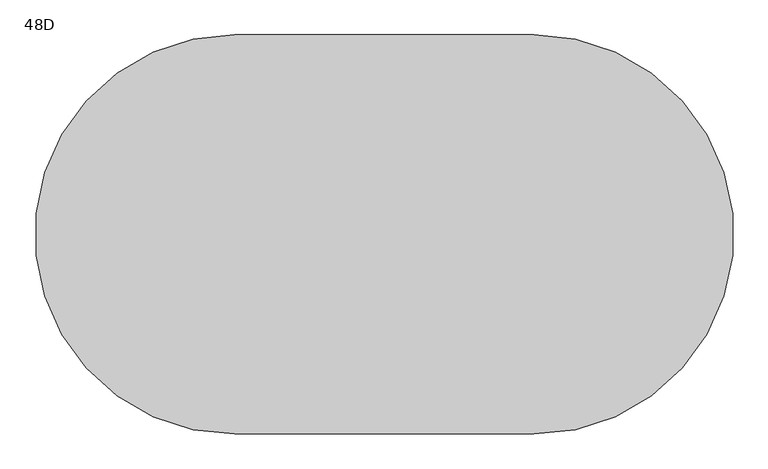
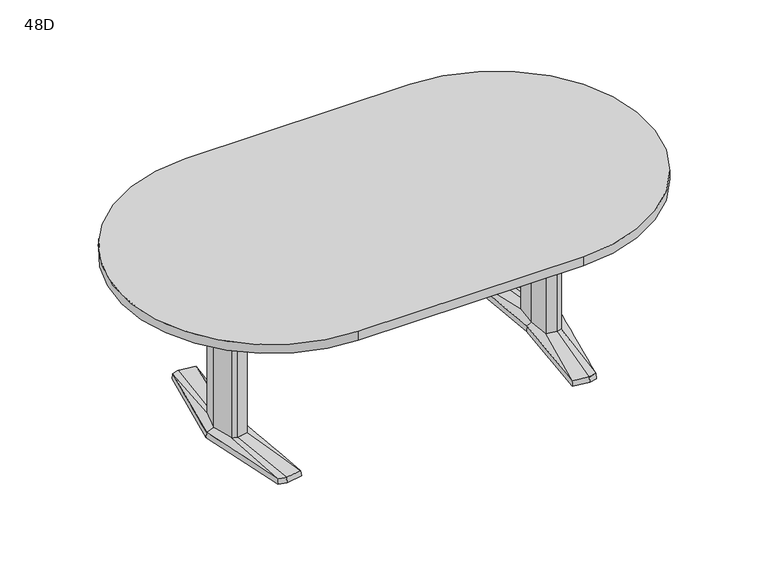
"""IFC4 building model written with IfcOpenShell, lengths in millimetres: furniture geometry, Coalesse_AM_Table_Conference_ETable2_Racetrack_84in_AluminiumBase : 48D."""

import ifcopenshell
import ifcopenshell.guid

model = None  # the IFC model being written
_history = None  # IfcOwnerHistory: only IFC2X3 demands one
_inside = {}  # id of a spatial element -> (the spatial element, [elements in it])
_under = {}  # id of a project, library or spatial element -> (it, [spatial elements below it])
_declared = {}  # id of a project -> (the project, [libraries it declares])
_typed = {}  # id of a type object -> (the type object, [elements of that type])
_made_of = {}  # id of a material, layer set ... -> (it, [elements and type objects made of it])


def new_model(schema):
    """Start an empty IFC model of exactly this schema.

    Asked for "IFC4X3", IfcOpenShell would pick the latest addendum, in which some entities
    have other attributes; the version numbers below select the first issue.
    IFC2X3 requires an IfcOwnerHistory on every rooted entity: one is made here for all.
    """
    global model, _history
    if schema == "IFC4X3":
        model = ifcopenshell.file(schema_version=(4, 3, 0, 0))
    else:
        model = ifcopenshell.file(schema=schema)
    _inside.clear()
    _under.clear()
    _declared.clear()
    _typed.clear()
    _made_of.clear()
    _history = None
    if model.schema == "IFC2X3":
        org = make("IfcOrganization", Name="unknown")
        user = make(
            "IfcPersonAndOrganization",
            ThePerson=make("IfcPerson", FamilyName="unknown"),
            TheOrganization=org,
        )
        app = make(
            "IfcApplication",
            ApplicationDeveloper=org,
            Version="unknown",
            ApplicationFullName="unknown",
            ApplicationIdentifier="unknown",
        )
        _history = make(
            "IfcOwnerHistory",
            OwningUser=user,
            OwningApplication=app,
            ChangeAction="ADDED",
            CreationDate=0,
        )
    return model


def make(cls, **values):
    """One entity of the class cls with the attributes given. An attribute that is None is left unset."""
    return model.create_entity(
        cls, **{name: value for name, value in values.items() if value is not None}
    )


def rooted(cls, **values):
    """An entity with a GlobalId (a new one), such as an element, a storey or a relation."""
    return make(cls, GlobalId=ifcopenshell.guid.new(), OwnerHistory=_history, **values)


def si_unit(unit_type, name, prefix=None):
    """IfcSIUnit, for example si_unit("LENGTHUNIT", "METRE", prefix="MILLI")."""
    return make("IfcSIUnit", UnitType=unit_type, Prefix=prefix, Name=name)


def assignment(units):
    """IfcUnitAssignment: the units of a project."""
    return None if units is None else make("IfcUnitAssignment", Units=units)


def point(xyz):
    """IfcCartesianPoint."""
    return None if xyz is None else make("IfcCartesianPoint", Coordinates=xyz)


def direction(xyz):
    """IfcDirection."""
    return None if xyz is None else make("IfcDirection", DirectionRatios=xyz)


def frame(location, z_axis=None, x_axis=None):
    """IfcAxis2Placement3D, a coordinate frame: its origin and axes. An axis left out is left unset."""
    return make(
        "IfcAxis2Placement3D",
        Location=point(location),
        Axis=direction(z_axis),
        RefDirection=direction(x_axis),
    )


def frame_2d(location, x_axis=None):
    """IfcAxis2Placement2D, a coordinate frame in the plane: its origin and x axis."""
    return make(
        "IfcAxis2Placement2D", Location=point(location), RefDirection=direction(x_axis)
    )


def origin():
    """The frame at (0, 0, 0) with its axes left unset."""
    return frame((0.0, 0.0, 0.0))


def place(relative_to, where):
    """IfcLocalPlacement: puts the frame where relative to a parent placement (None: the world)."""
    return make(
        "IfcLocalPlacement", PlacementRelTo=relative_to, RelativePlacement=where
    )


def context(
    kind, dimensions, precision=None, world=None, true_north=None, identifier=None
):
    """IfcGeometricRepresentationContext, for example the 3D "Model" context."""
    return make(
        "IfcGeometricRepresentationContext",
        ContextIdentifier=identifier,
        ContextType=kind,
        CoordinateSpaceDimension=dimensions,
        Precision=precision,
        WorldCoordinateSystem=world,
        TrueNorth=true_north,
    )


def project(units=None, contexts=None):
    """IfcProject with its units and contexts."""
    return rooted(
        "IfcProject",
        Name="project",
        RepresentationContexts=contexts,
        UnitsInContext=assignment(units),
    )


def spatial(cls, under=None, at=None, **own):
    """A site, building, storey or space (cls), placed at a placement, below another one or the project."""
    s = rooted(cls, ObjectPlacement=at, **own)
    if under is not None:
        _under.setdefault(under.id(), (under, []))[1].append(s)
    return s


def polyline(points):
    """IfcPolyline through the points."""
    return make("IfcPolyline", Points=[point(p) for p in points])


def circle_curve(where, radius):
    """IfcCircle in the frame where."""
    return make("IfcCircle", Position=where, Radius=radius)


def trimmed(basis, trim1, trim2, sense, master):
    """IfcTrimmedCurve: the piece of a basis curve between two trims."""
    return make(
        "IfcTrimmedCurve",
        BasisCurve=basis,
        Trim1=trim1,
        Trim2=trim2,
        SenseAgreement=sense,
        MasterRepresentation=master,
    )


def segment(curve, same_sense, transition):
    """IfcCompositeCurveSegment."""
    return make(
        "IfcCompositeCurveSegment",
        Transition=transition,
        SameSense=same_sense,
        ParentCurve=curve,
    )


def composite_curve(segments, self_intersect=None):
    """IfcCompositeCurve: segments joined end to end."""
    return make("IfcCompositeCurve", Segments=segments, SelfIntersect=self_intersect)


def outline(outer, holes=None, kind="AREA"):
    """IfcArbitraryClosedProfileDef: a profile drawn as a closed curve; with holes, ...WithVoids."""
    if holes is None:
        return make("IfcArbitraryClosedProfileDef", ProfileType=kind, OuterCurve=outer)
    return make(
        "IfcArbitraryProfileDefWithVoids",
        ProfileType=kind,
        OuterCurve=outer,
        InnerCurves=holes,
    )


def extrude(swept, where, along, depth):
    """IfcExtrudedAreaSolid: the profile swept, set in the frame where, extruded along a direction by depth."""
    return make(
        "IfcExtrudedAreaSolid",
        SweptArea=swept,
        Position=where,
        ExtrudedDirection=direction(along),
        Depth=depth,
    )


def shape(context_of_items, identifier, shape_type, items):
    """IfcShapeRepresentation: the items that make up one representation, for example the "Body"."""
    return make(
        "IfcShapeRepresentation",
        ContextOfItems=context_of_items,
        RepresentationIdentifier=identifier,
        RepresentationType=shape_type,
        Items=items,
    )


def source(mapping_origin, context_of_items, identifier, shape_type, items):
    """IfcRepresentationMap: a shape defined once, which mapped items show again and again."""
    return make(
        "IfcRepresentationMap",
        MappingOrigin=mapping_origin,
        MappedRepresentation=shape(context_of_items, identifier, shape_type, items),
    )


def transform(
    local_origin,
    x_axis=None,
    y_axis=None,
    z_axis=None,
    scale=None,
    scale2=None,
    scale3=None,
    uniform=True,
):
    """IfcCartesianTransformationOperator3D, or its non-uniform kind. x_axis, y_axis, z_axis: its Axis1, 2, 3."""
    if uniform:
        return make(
            "IfcCartesianTransformationOperator3D",
            Axis1=direction(x_axis),
            Axis2=direction(y_axis),
            LocalOrigin=point(local_origin),
            Scale=scale,
            Axis3=direction(z_axis),
        )
    return make(
        "IfcCartesianTransformationOperator3DnonUniform",
        Axis1=direction(x_axis),
        Axis2=direction(y_axis),
        LocalOrigin=point(local_origin),
        Scale=scale,
        Axis3=direction(z_axis),
        Scale2=scale2,
        Scale3=scale3,
    )


def mapped(mapping_source, mapping_target):
    """IfcMappedItem: shows the shape of a source again, moved by a transform."""
    return make(
        "IfcMappedItem", MappingSource=mapping_source, MappingTarget=mapping_target
    )


def made_of(thing, what):
    """Note that an element or type object is made of a material, layer set ...; save() writes the relation."""
    if what is not None:
        _made_of.setdefault(what.id(), (what, []))[1].append(thing)
    return thing


def element(
    cls,
    number,
    at=None,
    inside=None,
    cuts=None,
    type_object=None,
    material=None,
    context=None,
    identifier="Body",
    shape_type=None,
    held_by="IfcProductDefinitionShape",
    body=None,
    shapes=None,
    **own,
):
    """One element of the class cls, such as IfcWall. Its Tag is "e" and its number.

    at: its placement. inside: the storey or other place that contains it. cuts: it is an
    opening in that element (IfcRelVoidsElement). A single representation is given by context,
    identifier, shape_type and body (its items); several are given by shapes. held_by: the class
    of the entity that holds the representations. save() writes the other relations.
    """
    e = rooted(cls, Tag="e%d" % number, ObjectPlacement=at, **own)
    if body is not None:
        shapes = [shape(context, identifier, shape_type, body)]
    if shapes is not None:
        e.Representation = make(held_by, Representations=shapes)
    if inside is not None:
        _inside.setdefault(inside.id(), (inside, []))[1].append(e)
    if cuts is not None:
        rooted(
            "IfcRelVoidsElement", RelatingBuildingElement=cuts, RelatedOpeningElement=e
        )
    if type_object is not None:
        _typed.setdefault(type_object.id(), (type_object, []))[1].append(e)
    return made_of(e, material)


def aggregate(whole, parts):
    """IfcRelAggregates: a whole, such as a stair, and the parts it consists of."""
    return rooted("IfcRelAggregates", RelatingObject=whole, RelatedObjects=parts)


def save(model, path):
    """Write the relations noted so far, then the file.

    IfcRelAggregates (storeys below a building ...), IfcRelContainedInSpatialStructure (elements
    in a storey), IfcRelDefinesByType, IfcRelAssociatesMaterial and IfcRelDeclares: one each for
    every whole, place, type object, material and project.
    """
    for whole, parts in _under.values():
        aggregate(whole, parts)
    for where, things in _inside.values():
        rooted(
            "IfcRelContainedInSpatialStructure",
            RelatedElements=things,
            RelatingStructure=where,
        )
    for kind, things in _typed.values():
        rooted("IfcRelDefinesByType", RelatedObjects=things, RelatingType=kind)
    for what, things in _made_of.values():
        rooted("IfcRelAssociatesMaterial", RelatedObjects=things, RelatingMaterial=what)
    for by, libraries in _declared.values():
        rooted("IfcRelDeclares", RelatingContext=by, RelatedDefinitions=libraries)
    model.write(path)


def plane_surface(at):
    """IfcPlane: the flat surface through the origin of the frame at, square to its z axis."""
    return make("IfcPlane", Position=at)


def spline_surface(u_degree, v_degree, points, u_multiplicities, v_multiplicities, u_knots, v_knots, weights=None):
    """IfcBSplineSurfaceWithKnots; with weights, IfcRationalBSplineSurfaceWithKnots. points: one row for each step in u."""
    own = dict(
        UDegree=u_degree,
        VDegree=v_degree,
        ControlPointsList=[[point(p) for p in row] for row in points],
        SurfaceForm="UNSPECIFIED",
        UClosed=False,
        VClosed=False,
        SelfIntersect=False,
        UMultiplicities=u_multiplicities,
        VMultiplicities=v_multiplicities,
        UKnots=u_knots,
        VKnots=v_knots,
        KnotSpec="UNSPECIFIED",
    )
    if weights is None:
        return make("IfcBSplineSurfaceWithKnots", **own)
    return make("IfcRationalBSplineSurfaceWithKnots", WeightsData=weights, **own)


def advanced_brep(points, edges, surfaces, faces):
    """IfcAdvancedBrep: a solid bounded by faces that lie on surfaces and meet in shared edges.

    An edge is (start, end): straight between two places in points (the first is 0);
    or (start, end, curve); or (start, end, curve, False) where it runs against its curve.
    A face is (place in surfaces, loops), or (place, loops, False) where it looks against
    its surface's normal. A loop lists edges by number (the first is 1), with a minus sign
    where the edge is run from its end to its start. The first loop is the outer one.
    """
    corners = [point(p) for p in points]
    vertices = [make("IfcVertexPoint", VertexGeometry=c) for c in corners]
    made = []
    for start, end, *more in edges:
        made.append(
            make(
                "IfcEdgeCurve",
                EdgeStart=vertices[start],
                EdgeEnd=vertices[end],
                EdgeGeometry=more[0] if more else make("IfcPolyline", Points=[corners[start], corners[end]]),
                SameSense=more[1] if len(more) > 1 else True,
            )
        )
    hull = []
    for where, loops, *sense in faces:
        bounds = []
        for j, loop in enumerate(loops):
            ring = [make("IfcOrientedEdge", EdgeElement=made[abs(k) - 1], Orientation=k > 0) for k in loop]
            bounds.append(
                make(
                    "IfcFaceOuterBound" if j == 0 else "IfcFaceBound",
                    Bound=make("IfcEdgeLoop", EdgeList=ring),
                    Orientation=True,
                )
            )
        hull.append(make("IfcAdvancedFace", Bounds=bounds, FaceSurface=surfaces[where], SameSense=sense[0] if sense else True))
    return make("IfcAdvancedBrep", Outer=make("IfcClosedShell", CfsFaces=hull))


def furniture_48d_139d7b73(model_context):
    return source(origin(), model_context, "Body", "SolidModel", [
        advanced_brep(
        [(614.8503471, -379.3768856, 25.4), (644.5756636, -371.5332654, 25.4), (668.2327243, -89.293702, 36.5125), (648.9795254, -94.605478, 36.5125), (606.0521001, -87.0529327, 36.5125), (551.7612538, -368.5071562, 25.4), (597.9364207, 0.0, 36.5125), (579.8389754, 0.3970149, 25.4), (606.0521001, 87.0529327, 36.5125), (551.7615002, 368.5172593, 25.4), (648.9795254, 94.605478, 36.5125), (614.8502233, 379.3769183, 25.4), (668.2327243, 89.293702, 36.5125), (644.7535458, 371.4863276, 25.4), (692.1595251, 0.0, 36.5125), (721.4851663, 0.0003516, 25.4), (578.2468742, 0.3968871, 3.175), (550.06875, 369.8367279, 3.175), (614.9213004, 381.0, 3.175), (646.1093245, 372.7704151, 3.175), (723.10625, 0.0, 3.175), (645.9309817, -372.8174744, 3.175), (614.9213004, -381.0, 3.175), (550.06875, -369.8264415, 3.175), (649.5979264, 107.6121478, 3.175), (594.3065451, 97.8843184, 3.175), (585.1810887, 0.0, 3.175), (594.3065451, -97.8843184, 3.175), (649.5979264, -107.6121478, 3.175), (678.6183473, -99.6056872, 3.175), (705.3083085, 0.0, 3.175), (678.6183473, 99.6056872, 3.175), (613.4286812, 346.9152841, 3.175), (557.7811371, 337.3364985, 3.175), (560.1889918, 324.8641942, 3.175), (612.8600644, 333.9306305, 3.175), (648.6725609, 324.4807859, 3.175), (647.5544526, 337.9105158, 3.175), (613.4286812, -346.9152841, 3.175), (647.5544526, -337.9105158, 3.175), (648.6725609, -324.4807859, 3.175), (612.8600644, -333.9306305, 3.175), (560.1889918, -324.8641942, 3.175), (557.7811371, -337.3364985, 3.175), (649.5979264, 107.6121478, 0.0), (678.6183473, 99.6056872, 0.0), (705.3083085, 0.0, 0.0), (678.6183473, -99.6056872, 0.0), (649.5979264, -107.6121478, 0.0), (594.3065451, -97.8843184, 0.0), (585.1810887, 0.0, 0.0), (594.3065451, 97.8843184, 0.0), (613.4286812, 346.9152841, 0.0), (647.5544526, 337.9105158, 0.0), (648.6725609, 324.4807859, 0.0), (612.8600644, 333.9306305, 0.0), (560.1889918, 324.8641942, 0.0), (557.7811371, 337.3364985, 0.0), (613.4286812, -346.9152841, 0.0), (557.7811371, -337.3364985, 0.0), (560.1889918, -324.8641942, 0.0), (612.8600644, -333.9306305, 0.0), (648.6725609, -324.4807859, 0.0), (647.5544526, -337.9105158, 0.0), (668.2327243, 89.293702, 698.5), (648.9795254, 94.605478, 698.5), (606.0521001, 87.0529327, 698.5), (597.9364207, 0.0, 698.5), (606.0521001, -87.0529327, 698.5), (648.9795254, -94.605478, 698.5), (668.2327243, -89.293702, 698.5), (692.1595251, 0.0, 698.5)],
        [
            (0, 1),
            (1, 2),
            (2, 3),
            (3, 0),
            (3, 4),
            (4, 5),
            (5, 0),
            (4, 6),
            (6, 7),
            (7, 5),
            (6, 8),
            (8, 9),
            (9, 7),
            (8, 10),
            (10, 11),
            (11, 9),
            (10, 12),
            (12, 13),
            (13, 11),
            (12, 14),
            (14, 15),
            (15, 13),
            (1, 15),
            (14, 2),
            (16, 17),
            (17, 18),
            (18, 19),
            (19, 20),
            (20, 21),
            (21, 22),
            (22, 23),
            (23, 16),
            (24, 25),
            (25, 26),
            (26, 27),
            (27, 28),
            (28, 29),
            (29, 30),
            (30, 31),
            (31, 24),
            (32, 33),
            (33, 34),
            (34, 35),
            (35, 36),
            (36, 37),
            (37, 32),
            (38, 39),
            (39, 40),
            (40, 41),
            (41, 42),
            (42, 43),
            (43, 38),
            (16, 7),
            (9, 17),
            (11, 18),
            (13, 19),
            (15, 20),
            (1, 21),
            (0, 22),
            (5, 23),
            (44, 45),
            (45, 46),
            (46, 47),
            (47, 48),
            (48, 49),
            (49, 50),
            (50, 51),
            (51, 44),
            (52, 53),
            (53, 54),
            (54, 55),
            (55, 56),
            (56, 57),
            (57, 52),
            (58, 59),
            (59, 60),
            (60, 61),
            (61, 62),
            (62, 63),
            (63, 58),
            (44, 24),
            (31, 45),
            (30, 46),
            (29, 47),
            (28, 48),
            (27, 49),
            (26, 50),
            (25, 51),
            (52, 32),
            (37, 53),
            (36, 54),
            (35, 55),
            (34, 56),
            (33, 57),
            (58, 38),
            (43, 59),
            (42, 60),
            (41, 61),
            (40, 62),
            (39, 63),
            (64, 65),
            (65, 66),
            (66, 67),
            (67, 68),
            (68, 69),
            (69, 70),
            (70, 71),
            (71, 64),
            (71, 14),
            (12, 64),
            (70, 2),
            (69, 3),
            (68, 4),
            (67, 6),
            (66, 8),
            (65, 10),
        ],
        [
            spline_surface(1, 1, [[(644.5756636, -371.5332654, 25.4), (614.8503471, -379.3768856, 25.4)], [(668.2327243, -89.293702, 36.5125), (648.9795254, -94.605478, 36.5125)]], [2, 2], [2, 2], [0.0, 1.0], [0.0, 1.0]),
            spline_surface(1, 1, [[(614.8503471, -379.3768856, 25.4), (551.7612538, -368.5071562, 25.4)], [(648.9795254, -94.605478, 36.5125), (606.0521001, -87.0529327, 36.5125)]], [2, 2], [2, 2], [0.0, 1.0], [0.0, 1.0]),
            spline_surface(1, 1, [[(551.7612538, -368.5071562, 25.4), (579.8389754, 0.3970149, 25.4)], [(606.0521001, -87.0529327, 36.5125), (597.9364207, 0.0, 36.5125)]], [2, 2], [2, 2], [0.0, 1.0], [0.0, 1.0]),
            spline_surface(1, 1, [[(579.8389754, 0.3970149, 25.4), (551.7615002, 368.5172593, 25.4)], [(597.9364207, 0.0, 36.5125), (606.0521001, 87.0529327, 36.5125)]], [2, 2], [2, 2], [0.0, 1.0], [0.0, 1.0]),
            spline_surface(1, 1, [[(551.7615002, 368.5172593, 25.4), (614.8502233, 379.3769183, 25.4)], [(606.0521001, 87.0529327, 36.5125), (648.9795254, 94.605478, 36.5125)]], [2, 2], [2, 2], [0.0, 1.0], [0.0, 1.0]),
            spline_surface(1, 1, [[(614.8502233, 379.3769183, 25.4), (644.7535458, 371.4863276, 25.4)], [(648.9795254, 94.605478, 36.5125), (668.2327243, 89.293702, 36.5125)]], [2, 2], [2, 2], [0.0, 1.0], [0.0, 1.0]),
            spline_surface(1, 1, [[(644.7535458, 371.4863276, 25.4), (721.4851663, 0.0003516, 25.4)], [(668.2327243, 89.293702, 36.5125), (692.1595251, 0.0, 36.5125)]], [2, 2], [2, 2], [0.0, 1.0], [0.0, 1.0]),
            spline_surface(1, 1, [[(721.4851663, 0.0003516, 25.4), (644.5756636, -371.5332654, 25.4)], [(692.1595251, 0.0, 36.5125), (668.2327243, -89.293702, 36.5125)]], [2, 2], [2, 2], [0.0, 1.0], [0.0, 1.0]),
            plane_surface(frame((615.4216914, 0.0450143, 3.175), z_axis=(0.0, 0.0, -1.0), x_axis=(-0.9669048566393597, -0.2551372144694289, 0.0))),
            plane_surface(frame((564.1578121, 185.1168075, 3.175), z_axis=(-0.9945699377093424, -0.07585840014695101, 0.0712470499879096), x_axis=(-0.07605167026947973, 0.9971038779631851, 0.0))),
            plane_surface(frame((582.4950252, 375.418364, 3.175), z_axis=(-0.1692071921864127, 0.9830019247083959, 0.07124704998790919), x_axis=(0.985506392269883, 0.16963829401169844, 0.0))),
            plane_surface(frame((630.5153124, 376.8852076, 3.175), z_axis=(0.2544888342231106, 0.9644476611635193, 0.07124704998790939), x_axis=(0.9669048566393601, -0.25513721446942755, 0.0))),
            plane_surface(frame((684.6077872, 186.3852076, 3.175), z_axis=(0.9768383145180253, 0.2017690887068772, 0.07124704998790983), x_axis=(0.20228315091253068, -0.9793270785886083, 0.0))),
            plane_surface(frame((684.5186158, -186.4087372, 3.175), z_axis=(0.9767507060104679, -0.20219276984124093, 0.07124704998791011), x_axis=(-0.2027079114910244, -0.9792392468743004, 0.0))),
            plane_surface(frame((630.426141, -376.9087372, 3.175), z_axis=(0.2544888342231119, -0.9644476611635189, 0.0712470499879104), x_axis=(-0.9669048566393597, -0.2551372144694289, 0.0))),
            plane_surface(frame((582.4950252, -375.4132207, 3.175), z_axis=(-0.16935861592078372, -0.982975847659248, 0.07124704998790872), x_axis=(-0.9854802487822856, 0.16979010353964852, 0.0))),
            plane_surface(frame((564.1578121, -184.7147772, 3.175), z_axis=(-0.9945820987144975, 0.07569878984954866, 0.07124704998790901), x_axis=(0.07589165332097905, 0.9971160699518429, 0.0))),
            plane_surface(frame((652.3571479, 106.8509046, 0.0), z_axis=(0.0, 0.0, -1.0000000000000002), x_axis=(-0.9639855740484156, 0.26595453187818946, 0.0))),
            plane_surface(frame((649.5979264, 107.6121478, 3.175), z_axis=(0.26595453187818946, 0.9639855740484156, 0.0), x_axis=(0.0, 0.0, -1.0))),
            plane_surface(frame((678.6183473, 99.6056872, 3.175), z_axis=(0.9659241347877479, 0.2588253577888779, 0.0), x_axis=(0.0, 0.0, -1.0))),
            plane_surface(frame((705.3083085, 0.0, 3.175), z_axis=(0.9659241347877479, -0.2588253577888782, 0.0), x_axis=(0.0, 0.0, -1.0))),
            plane_surface(frame((678.6183473, -99.6056872, 3.175), z_axis=(0.26595453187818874, -0.9639855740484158, 0.0), x_axis=(0.0, 0.0, -1.0))),
            plane_surface(frame((649.5979264, -107.6121478, 3.175), z_axis=(-0.17327617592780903, -0.9848732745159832, 0.0), x_axis=(0.0, 0.0, -1.0))),
            plane_surface(frame((594.3065451, -97.8843184, 3.175), z_axis=(-0.9956824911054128, -0.0928244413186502, 0.0), x_axis=(0.0, 0.0, -1.0))),
            plane_surface(frame((585.1810887, 0.0, 3.175), z_axis=(-0.9956824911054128, 0.09282444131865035, 0.0), x_axis=(0.0, 0.0, -1.0))),
            plane_surface(frame((594.3065451, 97.8843184, 3.175), z_axis=(-0.17327617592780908, 0.984873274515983, 0.0), x_axis=(0.0, 0.0, -1.0))),
            plane_surface(frame((613.4286812, 346.9152841, 3.175), z_axis=(0.25513721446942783, 0.9669048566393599, 0.0), x_axis=(0.0, 0.0, -1.0))),
            plane_surface(frame((647.5544526, 337.9105158, 3.175), z_axis=(0.9965521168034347, 0.0829691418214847, 0.0), x_axis=(0.0, 0.0, -1.0))),
            plane_surface(frame((648.6725609, 324.4807859, 3.175), z_axis=(-0.25513721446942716, -0.9669048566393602, 0.0), x_axis=(0.0, 0.0, -1.0))),
            plane_surface(frame((612.8600644, 333.9306305, 3.175), z_axis=(0.16963829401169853, -0.985506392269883, 0.0), x_axis=(0.0, 0.0, -1.0))),
            plane_surface(frame((560.1889918, 324.8641942, 3.175), z_axis=(-0.9818699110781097, -0.18955600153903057, 0.0), x_axis=(0.0, 0.0, -1.0))),
            plane_surface(frame((557.7811371, 337.3364985, 3.175), z_axis=(-0.16963829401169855, 0.9855063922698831, 0.0), x_axis=(0.0, 0.0, -1.0))),
            plane_surface(frame((613.4286812, -346.9152841, 3.175), z_axis=(-0.1696382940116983, -0.9855063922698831, 0.0), x_axis=(0.0, 0.0, -1.0))),
            plane_surface(frame((557.7811371, -337.3364985, 3.175), z_axis=(-0.9818699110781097, 0.18955600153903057, 0.0), x_axis=(0.0, 0.0, -1.0))),
            plane_surface(frame((560.1889918, -324.8641942, 3.175), z_axis=(0.16963829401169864, 0.985506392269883, 0.0), x_axis=(0.0, 0.0, -1.0))),
            plane_surface(frame((612.8600644, -333.9306305, 3.175), z_axis=(-0.2551372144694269, 0.9669048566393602, 0.0), x_axis=(0.0, 0.0, -1.0))),
            plane_surface(frame((648.6725609, -324.4807859, 3.175), z_axis=(0.9965521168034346, -0.0829691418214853, 0.0), x_axis=(0.0, 0.0, -1.0))),
            plane_surface(frame((647.5544526, -337.9105158, 3.175), z_axis=(0.2551372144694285, -0.9669048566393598, 0.0), x_axis=(0.0, 0.0, -1.0))),
            plane_surface(frame((692.1595251, 0.0, 698.5), z_axis=(0.0, 0.0, 1.0), x_axis=(0.25882535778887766, -0.965924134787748, 0.0))),
            plane_surface(frame((668.2327243, 89.293702, 698.5), z_axis=(0.965924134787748, 0.25882535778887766, 0.0), x_axis=(0.0, 0.0, -1.0))),
            plane_surface(frame((692.1595251, 0.0, 698.5), z_axis=(0.965924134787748, -0.2588253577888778, 0.0), x_axis=(0.0, 0.0, -1.0))),
            plane_surface(frame((668.2327243, -89.293702, 698.5), z_axis=(0.2659545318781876, -0.963985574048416, 0.0), x_axis=(0.0, 0.0, -1.0))),
            plane_surface(frame((648.9795254, -94.605478, 698.5), z_axis=(-0.1732761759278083, -0.9848732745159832, 0.0), x_axis=(0.0, 0.0, -1.0))),
            plane_surface(frame((606.0521001, -87.0529327, 698.5), z_axis=(-0.9956824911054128, -0.0928244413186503, 0.0), x_axis=(0.0, 0.0, -1.0))),
            plane_surface(frame((597.9364207, 0.0, 698.5), z_axis=(-0.9956824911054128, 0.09282444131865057, 0.0), x_axis=(0.0, 0.0, -1.0))),
            plane_surface(frame((606.0521001, 87.0529327, 698.5), z_axis=(-0.17327617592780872, 0.9848732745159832, 0.0), x_axis=(0.0, 0.0, -1.0))),
            plane_surface(frame((648.9795254, 94.605478, 698.5), z_axis=(0.26595453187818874, 0.9639855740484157, 0.0), x_axis=(0.0, 0.0, -1.0))),
        ],
        [
            (0, [[1, 2, 3, 4]]),
            (1, [[5, 6, 7, -4]]),
            (2, [[8, 9, 10, -6]]),
            (3, [[11, 12, 13, -9]]),
            (4, [[14, 15, 16, -12]]),
            (5, [[17, 18, 19, -15]]),
            (6, [[20, 21, 22, -18]]),
            (7, [[23, -21, 24, -2]]),
            (8, [[25, 26, 27, 28, 29, 30, 31, 32], [33, 34, 35, 36, 37, 38, 39, 40], [41, 42, 43, 44, 45, 46], [47, 48, 49, 50, 51, 52]]),
            (9, [[53, -13, 54, -25]]),
            (10, [[-54, -16, 55, -26]]),
            (11, [[-55, -19, 56, -27]]),
            (12, [[-56, -22, 57, -28]]),
            (13, [[-57, -23, 58, -29]]),
            (14, [[-58, -1, 59, -30]]),
            (15, [[-59, -7, 60, -31]]),
            (16, [[-60, -10, -53, -32]]),
            (17, [[61, 62, 63, 64, 65, 66, 67, 68]]),
            (17, [[69, 70, 71, 72, 73, 74]]),
            (17, [[75, 76, 77, 78, 79, 80]]),
            (18, [[81, -40, 82, -61]]),
            (19, [[-82, -39, 83, -62]]),
            (20, [[-83, -38, 84, -63]]),
            (21, [[-84, -37, 85, -64]]),
            (22, [[-85, -36, 86, -65]]),
            (23, [[-86, -35, 87, -66]]),
            (24, [[-87, -34, 88, -67]]),
            (25, [[-88, -33, -81, -68]]),
            (26, [[89, -46, 90, -69]]),
            (27, [[-90, -45, 91, -70]]),
            (28, [[-91, -44, 92, -71]]),
            (29, [[-92, -43, 93, -72]]),
            (30, [[-93, -42, 94, -73]]),
            (31, [[-94, -41, -89, -74]]),
            (32, [[95, -52, 96, -75]]),
            (33, [[-96, -51, 97, -76]]),
            (34, [[-97, -50, 98, -77]]),
            (35, [[-98, -49, 99, -78]]),
            (36, [[-99, -48, 100, -79]]),
            (37, [[-100, -47, -95, -80]]),
            (38, [[101, 102, 103, 104, 105, 106, 107, 108]]),
            (39, [[109, -20, 110, -108]]),
            (40, [[111, -24, -109, -107]]),
            (41, [[112, -3, -111, -106]]),
            (42, [[113, -5, -112, -105]]),
            (43, [[114, -8, -113, -104]]),
            (44, [[115, -11, -114, -103]]),
            (45, [[116, -14, -115, -102]]),
            (46, [[-110, -17, -116, -101]]),
        ],
    ),
        advanced_brep(
        [(-614.8503471, -379.3768856, 25.4), (-648.9795254, -94.605478, 36.5125), (-668.2327243, -89.293702, 36.5125), (-644.5756636, -371.5332654, 25.4), (-551.7612538, -368.5071562, 25.4), (-606.0521001, -87.0529327, 36.5125), (-579.8389754, 0.3970149, 25.4), (-597.9364207, 0.0, 36.5125), (-551.7615002, 368.5172593, 25.4), (-606.0521001, 87.0529327, 36.5125), (-614.8502233, 379.3769183, 25.4), (-648.9795254, 94.605478, 36.5125), (-644.7535458, 371.4863276, 25.4), (-668.2327243, 89.293702, 36.5125), (-721.4851663, 0.0003516, 25.4), (-692.1595251, 0.0, 36.5125), (-578.2468742, 0.3968871, 3.175), (-550.06875, -369.8264415, 3.175), (-614.9213004, -381.0, 3.175), (-645.9309817, -372.8174744, 3.175), (-723.10625, 0.0, 3.175), (-646.1093245, 372.7704151, 3.175), (-614.9213004, 381.0, 3.175), (-550.06875, 369.8367279, 3.175), (-649.5979264, 107.6121478, 3.175), (-678.6183473, 99.6056872, 3.175), (-705.3083085, 0.0, 3.175), (-678.6183473, -99.6056872, 3.175), (-649.5979264, -107.6121478, 3.175), (-594.3065451, -97.8843184, 3.175), (-585.1810887, 0.0, 3.175), (-594.3065451, 97.8843184, 3.175), (-613.4286812, 346.9152841, 3.175), (-647.5544526, 337.9105158, 3.175), (-648.6725609, 324.4807859, 3.175), (-612.8600644, 333.9306305, 3.175), (-560.1889918, 324.8641942, 3.175), (-557.7811371, 337.3364985, 3.175), (-613.4286812, -346.9152841, 3.175), (-557.7811371, -337.3364985, 3.175), (-560.1889918, -324.8641942, 3.175), (-612.8600644, -333.9306305, 3.175), (-648.6725609, -324.4807859, 3.175), (-647.5544526, -337.9105158, 3.175), (-649.5979264, 107.6121478, 0.0), (-594.3065451, 97.8843184, 0.0), (-585.1810887, 0.0, 0.0), (-594.3065451, -97.8843184, 0.0), (-649.5979264, -107.6121478, 0.0), (-678.6183473, -99.6056872, 0.0), (-705.3083085, 0.0, 0.0), (-678.6183473, 99.6056872, 0.0), (-613.4286812, 346.9152841, 0.0), (-557.7811371, 337.3364985, 0.0), (-560.1889918, 324.8641942, 0.0), (-612.8600644, 333.9306305, 0.0), (-648.6725609, 324.4807859, 0.0), (-647.5544526, 337.9105158, 0.0), (-613.4286812, -346.9152841, 0.0), (-647.5544526, -337.9105158, 0.0), (-648.6725609, -324.4807859, 0.0), (-612.8600644, -333.9306305, 0.0), (-560.1889918, -324.8641942, 0.0), (-557.7811371, -337.3364985, 0.0), (-668.2327243, 89.293702, 698.5), (-692.1595251, 0.0, 698.5), (-668.2327243, -89.293702, 698.5), (-648.9795254, -94.605478, 698.5), (-606.0521001, -87.0529327, 698.5), (-597.9364207, 0.0, 698.5), (-606.0521001, 87.0529327, 698.5), (-648.9795254, 94.605478, 698.5)],
        [
            (0, 1),
            (1, 2),
            (2, 3),
            (3, 0),
            (0, 4),
            (4, 5),
            (5, 1),
            (4, 6),
            (6, 7),
            (7, 5),
            (6, 8),
            (8, 9),
            (9, 7),
            (8, 10),
            (10, 11),
            (11, 9),
            (10, 12),
            (12, 13),
            (13, 11),
            (12, 14),
            (14, 15),
            (15, 13),
            (2, 15),
            (14, 3),
            (16, 17),
            (17, 18),
            (18, 19),
            (19, 20),
            (20, 21),
            (21, 22),
            (22, 23),
            (23, 16),
            (24, 25),
            (25, 26),
            (26, 27),
            (27, 28),
            (28, 29),
            (29, 30),
            (30, 31),
            (31, 24),
            (32, 33),
            (33, 34),
            (34, 35),
            (35, 36),
            (36, 37),
            (37, 32),
            (38, 39),
            (39, 40),
            (40, 41),
            (41, 42),
            (42, 43),
            (43, 38),
            (23, 8),
            (6, 16),
            (22, 10),
            (21, 12),
            (20, 14),
            (19, 3),
            (18, 0),
            (17, 4),
            (44, 45),
            (45, 46),
            (46, 47),
            (47, 48),
            (48, 49),
            (49, 50),
            (50, 51),
            (51, 44),
            (52, 53),
            (53, 54),
            (54, 55),
            (55, 56),
            (56, 57),
            (57, 52),
            (58, 59),
            (59, 60),
            (60, 61),
            (61, 62),
            (62, 63),
            (63, 58),
            (51, 25),
            (24, 44),
            (50, 26),
            (49, 27),
            (48, 28),
            (47, 29),
            (46, 30),
            (45, 31),
            (57, 33),
            (32, 52),
            (56, 34),
            (55, 35),
            (54, 36),
            (53, 37),
            (63, 39),
            (38, 58),
            (62, 40),
            (61, 41),
            (60, 42),
            (59, 43),
            (64, 65),
            (65, 66),
            (66, 67),
            (67, 68),
            (68, 69),
            (69, 70),
            (70, 71),
            (71, 64),
            (64, 13),
            (15, 65),
            (2, 66),
            (1, 67),
            (5, 68),
            (7, 69),
            (9, 70),
            (11, 71),
        ],
        [
            spline_surface(1, 1, [[(-644.5756636, -371.5332654, 25.4), (-668.2327243, -89.293702, 36.5125)], [(-614.8503471, -379.3768856, 25.4), (-648.9795254, -94.605478, 36.5125)]], [2, 2], [2, 2], [0.0, 1.0], [0.0, 1.0]),
            spline_surface(1, 1, [[(-614.8503471, -379.3768856, 25.4), (-648.9795254, -94.605478, 36.5125)], [(-551.7612538, -368.5071562, 25.4), (-606.0521001, -87.0529327, 36.5125)]], [2, 2], [2, 2], [0.0, 1.0], [0.0, 1.0]),
            spline_surface(1, 1, [[(-551.7612538, -368.5071562, 25.4), (-606.0521001, -87.0529327, 36.5125)], [(-579.8389754, 0.3970149, 25.4), (-597.9364207, 0.0, 36.5125)]], [2, 2], [2, 2], [0.0, 1.0], [0.0, 1.0]),
            spline_surface(1, 1, [[(-579.8389754, 0.3970149, 25.4), (-597.9364207, 0.0, 36.5125)], [(-551.7615002, 368.5172593, 25.4), (-606.0521001, 87.0529327, 36.5125)]], [2, 2], [2, 2], [0.0, 1.0], [0.0, 1.0]),
            spline_surface(1, 1, [[(-551.7615002, 368.5172593, 25.4), (-606.0521001, 87.0529327, 36.5125)], [(-614.8502233, 379.3769183, 25.4), (-648.9795254, 94.605478, 36.5125)]], [2, 2], [2, 2], [0.0, 1.0], [0.0, 1.0]),
            spline_surface(1, 1, [[(-614.8502233, 379.3769183, 25.4), (-648.9795254, 94.605478, 36.5125)], [(-644.7535458, 371.4863276, 25.4), (-668.2327243, 89.293702, 36.5125)]], [2, 2], [2, 2], [0.0, 1.0], [0.0, 1.0]),
            spline_surface(1, 1, [[(-644.7535458, 371.4863276, 25.4), (-668.2327243, 89.293702, 36.5125)], [(-721.4851663, 0.0003516, 25.4), (-692.1595251, 0.0, 36.5125)]], [2, 2], [2, 2], [0.0, 1.0], [0.0, 1.0]),
            spline_surface(1, 1, [[(-721.4851663, 0.0003516, 25.4), (-692.1595251, 0.0, 36.5125)], [(-644.5756636, -371.5332654, 25.4), (-668.2327243, -89.293702, 36.5125)]], [2, 2], [2, 2], [0.0, 1.0], [0.0, 1.0]),
            plane_surface(frame((-615.4216914, 0.0450143, 3.175), z_axis=(0.0, 0.0, -1.0), x_axis=(0.9669048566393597, -0.2551372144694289, 0.0))),
            plane_surface(frame((-564.1578121, 185.1168075, 3.175), z_axis=(0.9945699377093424, -0.07585840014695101, 0.0712470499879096), x_axis=(0.07605167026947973, 0.9971038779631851, 0.0))),
            plane_surface(frame((-582.4950252, 375.418364, 3.175), z_axis=(0.1692071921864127, 0.9830019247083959, 0.07124704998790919), x_axis=(-0.985506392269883, 0.16963829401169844, 0.0))),
            plane_surface(frame((-630.5153124, 376.8852076, 3.175), z_axis=(-0.2544888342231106, 0.9644476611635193, 0.07124704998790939), x_axis=(-0.9669048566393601, -0.25513721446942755, 0.0))),
            plane_surface(frame((-684.6077872, 186.3852076, 3.175), z_axis=(-0.9768383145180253, 0.2017690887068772, 0.07124704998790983), x_axis=(-0.20228315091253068, -0.9793270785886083, 0.0))),
            plane_surface(frame((-684.5186158, -186.4087372, 3.175), z_axis=(-0.9767507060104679, -0.20219276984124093, 0.07124704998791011), x_axis=(0.2027079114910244, -0.9792392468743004, 0.0))),
            plane_surface(frame((-630.426141, -376.9087372, 3.175), z_axis=(-0.2544888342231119, -0.9644476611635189, 0.0712470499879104), x_axis=(0.9669048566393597, -0.2551372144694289, 0.0))),
            plane_surface(frame((-582.4950252, -375.4132207, 3.175), z_axis=(0.16935861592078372, -0.982975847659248, 0.07124704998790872), x_axis=(0.9854802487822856, 0.16979010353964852, 0.0))),
            plane_surface(frame((-564.1578121, -184.7147772, 3.175), z_axis=(0.9945820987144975, 0.07569878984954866, 0.07124704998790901), x_axis=(-0.07589165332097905, 0.9971160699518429, 0.0))),
            plane_surface(frame((-652.3571479, 106.8509046, 0.0), z_axis=(0.0, 0.0, -1.0000000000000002), x_axis=(0.9639855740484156, 0.26595453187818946, 0.0))),
            plane_surface(frame((-649.5979264, 107.6121478, 3.175), z_axis=(-0.26595453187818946, 0.9639855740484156, 0.0), x_axis=(0.0, 0.0, -1.0))),
            plane_surface(frame((-678.6183473, 99.6056872, 3.175), z_axis=(-0.9659241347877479, 0.2588253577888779, 0.0), x_axis=(0.0, 0.0, -1.0))),
            plane_surface(frame((-705.3083085, 0.0, 3.175), z_axis=(-0.9659241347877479, -0.2588253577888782, 0.0), x_axis=(0.0, 0.0, -1.0))),
            plane_surface(frame((-678.6183473, -99.6056872, 3.175), z_axis=(-0.26595453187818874, -0.9639855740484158, 0.0), x_axis=(0.0, 0.0, -1.0))),
            plane_surface(frame((-649.5979264, -107.6121478, 3.175), z_axis=(0.17327617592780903, -0.9848732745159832, 0.0), x_axis=(0.0, 0.0, -1.0))),
            plane_surface(frame((-594.3065451, -97.8843184, 3.175), z_axis=(0.9956824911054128, -0.0928244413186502, 0.0), x_axis=(0.0, 0.0, -1.0))),
            plane_surface(frame((-585.1810887, 0.0, 3.175), z_axis=(0.9956824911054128, 0.09282444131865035, 0.0), x_axis=(0.0, 0.0, -1.0))),
            plane_surface(frame((-594.3065451, 97.8843184, 3.175), z_axis=(0.17327617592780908, 0.984873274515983, 0.0), x_axis=(0.0, 0.0, -1.0))),
            plane_surface(frame((-613.4286812, 346.9152841, 3.175), z_axis=(-0.25513721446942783, 0.9669048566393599, 0.0), x_axis=(0.0, 0.0, -1.0))),
            plane_surface(frame((-647.5544526, 337.9105158, 3.175), z_axis=(-0.9965521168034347, 0.0829691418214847, 0.0), x_axis=(0.0, 0.0, -1.0))),
            plane_surface(frame((-648.6725609, 324.4807859, 3.175), z_axis=(0.25513721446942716, -0.9669048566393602, 0.0), x_axis=(0.0, 0.0, -1.0))),
            plane_surface(frame((-612.8600644, 333.9306305, 3.175), z_axis=(-0.16963829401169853, -0.985506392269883, 0.0), x_axis=(0.0, 0.0, -1.0))),
            plane_surface(frame((-560.1889918, 324.8641942, 3.175), z_axis=(0.9818699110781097, -0.18955600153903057, 0.0), x_axis=(0.0, 0.0, -1.0))),
            plane_surface(frame((-557.7811371, 337.3364985, 3.175), z_axis=(0.16963829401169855, 0.9855063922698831, 0.0), x_axis=(0.0, 0.0, -1.0))),
            plane_surface(frame((-613.4286812, -346.9152841, 3.175), z_axis=(0.1696382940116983, -0.9855063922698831, 0.0), x_axis=(0.0, 0.0, -1.0))),
            plane_surface(frame((-557.7811371, -337.3364985, 3.175), z_axis=(0.9818699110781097, 0.18955600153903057, 0.0), x_axis=(0.0, 0.0, -1.0))),
            plane_surface(frame((-560.1889918, -324.8641942, 3.175), z_axis=(-0.16963829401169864, 0.985506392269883, 0.0), x_axis=(0.0, 0.0, -1.0))),
            plane_surface(frame((-612.8600644, -333.9306305, 3.175), z_axis=(0.2551372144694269, 0.9669048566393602, 0.0), x_axis=(0.0, 0.0, -1.0))),
            plane_surface(frame((-648.6725609, -324.4807859, 3.175), z_axis=(-0.9965521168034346, -0.0829691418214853, 0.0), x_axis=(0.0, 0.0, -1.0))),
            plane_surface(frame((-647.5544526, -337.9105158, 3.175), z_axis=(-0.2551372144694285, -0.9669048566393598, 0.0), x_axis=(0.0, 0.0, -1.0))),
            plane_surface(frame((-692.1595251, 0.0, 698.5), z_axis=(0.0, 0.0, 1.0), x_axis=(-0.25882535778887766, -0.965924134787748, 0.0))),
            plane_surface(frame((-668.2327243, 89.293702, 698.5), z_axis=(-0.965924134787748, 0.25882535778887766, 0.0), x_axis=(0.0, 0.0, -1.0))),
            plane_surface(frame((-692.1595251, 0.0, 698.5), z_axis=(-0.965924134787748, -0.2588253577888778, 0.0), x_axis=(0.0, 0.0, -1.0))),
            plane_surface(frame((-668.2327243, -89.293702, 698.5), z_axis=(-0.2659545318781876, -0.963985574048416, 0.0), x_axis=(0.0, 0.0, -1.0))),
            plane_surface(frame((-648.9795254, -94.605478, 698.5), z_axis=(0.1732761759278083, -0.9848732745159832, 0.0), x_axis=(0.0, 0.0, -1.0))),
            plane_surface(frame((-606.0521001, -87.0529327, 698.5), z_axis=(0.9956824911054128, -0.0928244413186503, 0.0), x_axis=(0.0, 0.0, -1.0))),
            plane_surface(frame((-597.9364207, 0.0, 698.5), z_axis=(0.9956824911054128, 0.09282444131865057, 0.0), x_axis=(0.0, 0.0, -1.0))),
            plane_surface(frame((-606.0521001, 87.0529327, 698.5), z_axis=(0.17327617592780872, 0.9848732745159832, 0.0), x_axis=(0.0, 0.0, -1.0))),
            plane_surface(frame((-648.9795254, 94.605478, 698.5), z_axis=(-0.26595453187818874, 0.9639855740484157, 0.0), x_axis=(0.0, 0.0, -1.0))),
        ],
        [
            (0, [[1, 2, 3, 4]]),
            (1, [[-1, 5, 6, 7]]),
            (2, [[-6, 8, 9, 10]]),
            (3, [[-9, 11, 12, 13]]),
            (4, [[-12, 14, 15, 16]]),
            (5, [[-15, 17, 18, 19]]),
            (6, [[-18, 20, 21, 22]]),
            (7, [[-3, 23, -21, 24]]),
            (8, [[25, 26, 27, 28, 29, 30, 31, 32], [33, 34, 35, 36, 37, 38, 39, 40], [41, 42, 43, 44, 45, 46], [47, 48, 49, 50, 51, 52]]),
            (9, [[-32, 53, -11, 54]]),
            (10, [[-31, 55, -14, -53]]),
            (11, [[-30, 56, -17, -55]]),
            (12, [[-29, 57, -20, -56]]),
            (13, [[-28, 58, -24, -57]]),
            (14, [[-27, 59, -4, -58]]),
            (15, [[-26, 60, -5, -59]]),
            (16, [[-25, -54, -8, -60]]),
            (17, [[61, 62, 63, 64, 65, 66, 67, 68]]),
            (17, [[69, 70, 71, 72, 73, 74]]),
            (17, [[75, 76, 77, 78, 79, 80]]),
            (18, [[-68, 81, -33, 82]]),
            (19, [[-67, 83, -34, -81]]),
            (20, [[-66, 84, -35, -83]]),
            (21, [[-65, 85, -36, -84]]),
            (22, [[-64, 86, -37, -85]]),
            (23, [[-63, 87, -38, -86]]),
            (24, [[-62, 88, -39, -87]]),
            (25, [[-61, -82, -40, -88]]),
            (26, [[-74, 89, -41, 90]]),
            (27, [[-73, 91, -42, -89]]),
            (28, [[-72, 92, -43, -91]]),
            (29, [[-71, 93, -44, -92]]),
            (30, [[-70, 94, -45, -93]]),
            (31, [[-69, -90, -46, -94]]),
            (32, [[-80, 95, -47, 96]]),
            (33, [[-79, 97, -48, -95]]),
            (34, [[-78, 98, -49, -97]]),
            (35, [[-77, 99, -50, -98]]),
            (36, [[-76, 100, -51, -99]]),
            (37, [[-75, -96, -52, -100]]),
            (38, [[101, 102, 103, 104, 105, 106, 107, 108]]),
            (39, [[-101, 109, -22, 110]]),
            (40, [[-102, -110, -23, 111]]),
            (41, [[-103, -111, -2, 112]]),
            (42, [[-104, -112, -7, 113]]),
            (43, [[-105, -113, -10, 114]]),
            (44, [[-106, -114, -13, 115]]),
            (45, [[-107, -115, -16, 116]]),
            (46, [[-108, -116, -19, -109]]),
        ],
    ),
        extrude(outline(composite_curve([segment(trimmed(circle_curve(frame_2d((457.2, 0.0)), 609.6), [point((457.2, 609.6))], [point((457.2, -609.6))], False, "CARTESIAN"), True, "CONTINUOUS"), segment(polyline([(457.2, -609.6), (-457.2, -609.6)]), True, "CONTINUOUS"), segment(trimmed(circle_curve(frame_2d((-457.2, 0.0)), 609.6), [point((-457.2, -609.6))], [point((-457.2, 609.6))], False, "CARTESIAN"), True, "CONTINUOUS"), segment(polyline([(-457.2, 609.6), (457.2, 609.6)]), True, "CONTINUOUS")], self_intersect=False)), frame((0.0, 0.0, 698.5), z_axis=(0.0, 0.0, 1.0), x_axis=(1.0, 0.0, 0.0)), (0.0, 0.0, 1.0), 38.1),
        extrude(outline(polyline([(96.8375, 698.5), (103.1875, 698.5), (103.1875, 476.25), (-103.1875, 476.25), (-103.1875, 698.5), (-96.8375, 698.5), (-96.8375, 482.6), (96.8375, 482.6), (96.8375, 698.5)])), frame((-597.9364207, 0.0, 0.0), z_axis=(1.0, 0.0, 0.0), x_axis=(0.0, 1.0, 0.0)), (0.0, 0.0, 1.0), 1195.8728415),
    ])


if __name__ == "__main__":
    model = new_model("IFC4")
    model_context = context("Model", 3, world=origin())
    ifc_project = project(units=[si_unit("LENGTHUNIT", "METRE", prefix="MILLI")], contexts=[model_context])
    site = spatial("IfcSite", under=ifc_project)
    building = spatial("IfcBuilding", under=site)
    placement = place(None, origin())
    furniture_48d_shape = furniture_48d_139d7b73(model_context)
    element("IfcFurniture", 1, ObjectType="Coalesse_AM_Table_Conference_ETable2_Racetrack_84in_AluminiumBase : 48D", at=placement, inside=building, context=model_context, shape_type="MappedRepresentation", body=[
        mapped(furniture_48d_shape, transform((0.0, 0.0, 0.0), x_axis=(1.0, 0.0, 0.0), y_axis=(0.0, 1.0, 0.0), z_axis=(0.0, 0.0, 1.0))),
    ])
    save(model, "model.ifc")
